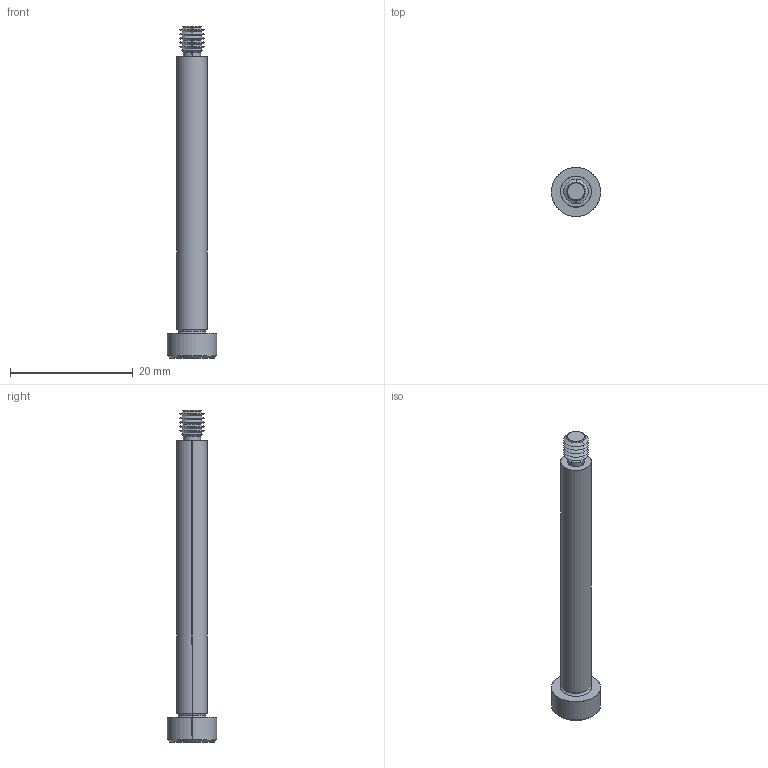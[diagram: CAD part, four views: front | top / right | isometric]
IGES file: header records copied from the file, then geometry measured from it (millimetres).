
Start section: SolidWorks IGES file using analytic representation for surfaces
Global section: file name: C:\Users\IanO\Documents\Temp Folder\GENERAL\SCREW REVISION\P0130_v2\P0130.T5_v2_20220106_IGES\P0130.050-045-T5.igs; native system: SolidWorks 2019; preprocessor: SolidWorks 2019; author: IanO; date: 220106.221849; units: millimetre
Bounding box: 8 x 8 x 54 mm (x, y, z)
Surface area: 1022.8 mm2 (no closed solid volume)
Topology: 0 solids, 0 shells, 64 faces, 504 edges, 502 vertices
Faces by surface type: revolution 44, bspline 20
